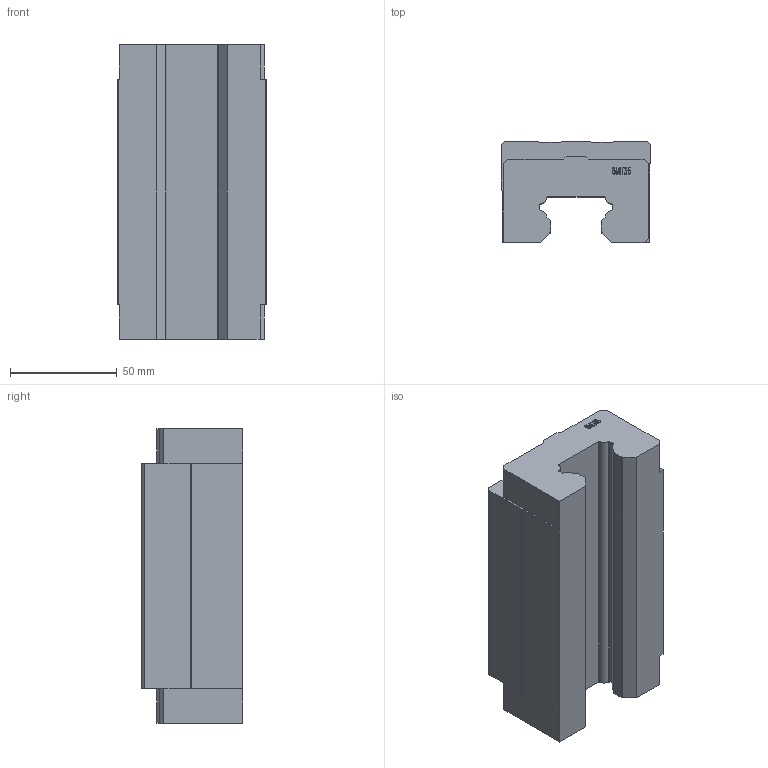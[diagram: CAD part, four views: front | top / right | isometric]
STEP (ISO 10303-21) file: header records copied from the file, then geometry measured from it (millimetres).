
FILE_DESCRIPTION (( 'STEP AP203' ), '1' );
FILE_NAME ('SMH35BL.stp', '2019-09-25T03:24:50', ( 'pgos' ), ( '' ), 'SwSTEP 2.0', 'SolidWorks 2014', '' );
FILE_SCHEMA (( 'CONFIG_CONTROL_DESIGN' ));
Length unit declared in the file: millimetre
Products named in the file (1): SMH35BL
Bounding box: 70 x 47.5 x 138.2 mm (x, y, z)
Volume: 348014.6 mm3; surface area: 44959.9 mm2
Topology: 1 solids, 1 shells, 223 faces, 636 edges, 424 vertices
Faces by surface type: plane 149, bspline 58, cylinder 16
Entity records: 9647 total; most frequent: CARTESIAN_POINT 4118, ORIENTED_EDGE 1272, DIRECTION 884, EDGE_CURVE 636, LINE 488, VECTOR 488, VERTEX_POINT 424, EDGE_LOOP 232
